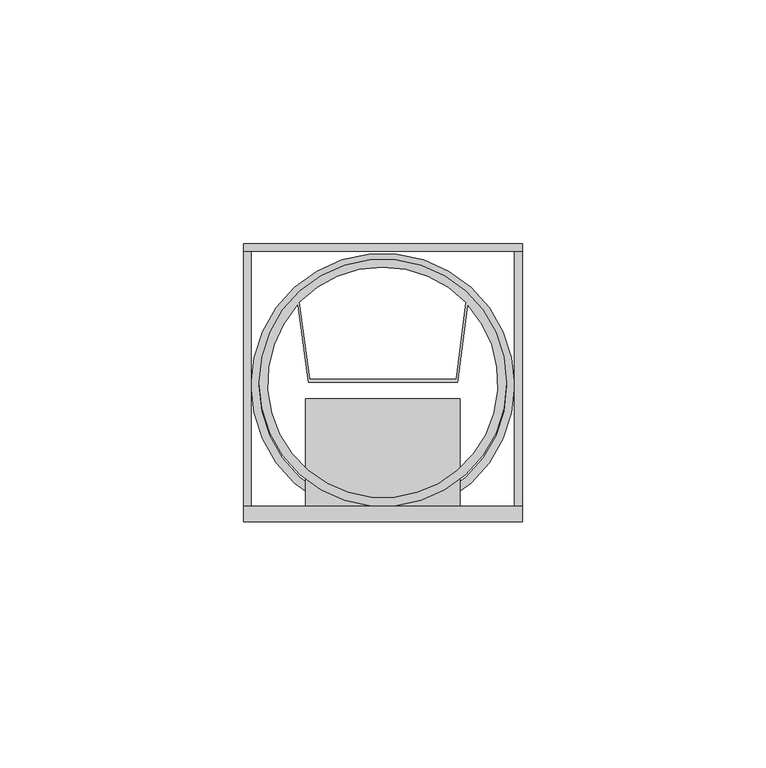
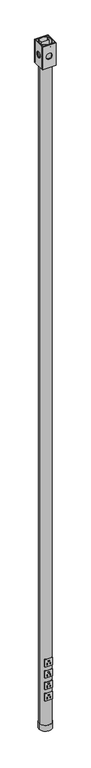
"""IFC4 building model written with IfcOpenShell, lengths in millimetres: proxy geometry, Tele-Power_Poles-Wiremold-Aluminum_Tele-Power_Pole_Round : Tele-Power_Poles-Wiremold-Aluminum_Tele-Power_Pole_Round."""

from ifc_helpers import new_model, si_unit, point, frame, frame_2d, origin, origin_with_axes, origin_2d, place, context, project, spatial, polyline, circle_curve, trimmed, segment, composite_curve, outline, extrude, source, transform, mapped, element, save


def electrical_fixtures_2617ac09(model_context):
    return source(origin(), model_context, "Body", "SweptSolid", [
        extrude(outline(polyline([(168.8388488, 15.875), (168.8388488, -15.875), (137.0888488, -15.875), (137.0888488, 15.875), (168.8388488, 15.875)]), holes=[composite_curve([segment(polyline([(161.1333961, -2.3961918), (161.1333961, 2.3663082), (157.9583961, 2.3663082)]), True, "CONTINUOUS"), segment(trimmed(circle_curve(frame_2d((157.9583961, -0.0149418)), 2.38125), [point((157.9583961, 2.3663082))], [point((157.9583961, -2.3961918))], True, "CARTESIAN"), True, "CONTINUOUS"), segment(polyline([(157.9583961, -2.3961918), (161.1333961, -2.3961918)]), True, "CONTINUOUS")], self_intersect=False), polyline([(149.8958961, 7.0054197), (143.5458961, 7.0054197), (143.5458961, 5.4191893), (149.8958961, 5.4191893), (149.8958961, 7.0054197)]), polyline([(142.7521461, -6.9945803), (150.6896461, -6.9945803), (150.6896461, -5.4083498), (142.7521461, -5.4083498), (142.7521461, -6.9945803)])]), frame((0.0, -25.4, 0.0), z_axis=(0.0, 1.0, 0.0), x_axis=(0.0, 0.0, 1.0)), (0.0, 0.0, 1.0), 22.5886821),
        extrude(outline(polyline([(219.6388488, 15.875), (219.6388488, -15.875), (187.8888488, -15.875), (187.8888488, 15.875), (219.6388488, 15.875)]), holes=[composite_curve([segment(polyline([(211.9333961, -2.3961918), (211.9333961, 2.3663082), (208.7583961, 2.3663082)]), True, "CONTINUOUS"), segment(trimmed(circle_curve(frame_2d((208.7583961, -0.0149418)), 2.38125), [point((208.7583961, 2.3663082))], [point((208.7583961, -2.3961918))], True, "CARTESIAN"), True, "CONTINUOUS"), segment(polyline([(208.7583961, -2.3961918), (211.9333961, -2.3961918)]), True, "CONTINUOUS")], self_intersect=False), polyline([(200.6958961, 7.0054197), (194.3458961, 7.0054197), (194.3458961, 5.4191893), (200.6958961, 5.4191893), (200.6958961, 7.0054197)]), polyline([(193.5521461, -6.9945803), (201.4896461, -6.9945803), (201.4896461, -5.4083498), (193.5521461, -5.4083498), (193.5521461, -6.9945803)])]), frame((0.0, -25.4, 0.0), z_axis=(0.0, 1.0, 0.0), x_axis=(0.0, 0.0, 1.0)), (0.0, 0.0, 1.0), 22.5886821),
        extrude(outline(polyline([(270.4388488, 15.875), (270.4388488, -15.875), (238.6888488, -15.875), (238.6888488, 15.875), (270.4388488, 15.875)]), holes=[composite_curve([segment(polyline([(262.7333961, -2.3961918), (262.7333961, 2.3663082), (259.5583961, 2.3663082)]), True, "CONTINUOUS"), segment(trimmed(circle_curve(frame_2d((259.5583961, -0.0149418)), 2.38125), [point((259.5583961, 2.3663082))], [point((259.5583961, -2.3961918))], True, "CARTESIAN"), True, "CONTINUOUS"), segment(polyline([(259.5583961, -2.3961918), (262.7333961, -2.3961918)]), True, "CONTINUOUS")], self_intersect=False), polyline([(251.4958961, 7.0054197), (245.1458961, 7.0054197), (245.1458961, 5.4191893), (251.4958961, 5.4191893), (251.4958961, 7.0054197)]), polyline([(244.3521461, -6.9945803), (252.2896461, -6.9945803), (252.2896461, -5.4083498), (244.3521461, -5.4083498), (244.3521461, -6.9945803)])]), frame((0.0, -25.4, 0.0), z_axis=(0.0, 1.0, 0.0), x_axis=(0.0, 0.0, 1.0)), (0.0, 0.0, 1.0), 22.5886821),
        extrude(outline(polyline([(321.2388488, 15.875), (321.2388488, -15.875), (289.4888488, -15.875), (289.4888488, 15.875), (321.2388488, 15.875)]), holes=[composite_curve([segment(polyline([(313.5333961, -2.3961918), (313.5333961, 2.3663082), (310.3583961, 2.3663082)]), True, "CONTINUOUS"), segment(trimmed(circle_curve(frame_2d((310.3583961, -0.0149418)), 2.38125), [point((310.3583961, 2.3663082))], [point((310.3583961, -2.3961918))], True, "CARTESIAN"), True, "CONTINUOUS"), segment(polyline([(310.3583961, -2.3961918), (313.5333961, -2.3961918)]), True, "CONTINUOUS")], self_intersect=False), polyline([(302.2958961, 7.0054197), (295.9458961, 7.0054197), (295.9458961, 5.4191893), (302.2958961, 5.4191893), (302.2958961, 7.0054197)]), polyline([(295.1521461, -6.9945803), (303.0896461, -6.9945803), (303.0896461, -5.4083498), (295.1521461, -5.4083498), (295.1521461, -6.9945803)])]), frame((0.0, -25.4, 0.0), z_axis=(0.0, 1.0, 0.0), x_axis=(0.0, 0.0, 1.0)), (0.0, 0.0, 1.0), 22.5886821),
        extrude(outline(polyline([(3073.4, -28.6508285), (2971.8, -28.6508285), (2971.8, 28.6508285), (3073.4, 28.6508285), (3073.4, -28.6508285)]), holes=[composite_curve([segment(trimmed(circle_curve(frame_2d((3022.6, 0.0)), 12.7), [point((3022.6, -12.7))], [point((3022.6, 12.7))], True, "CARTESIAN"), True, "CONTINUOUS"), segment(trimmed(circle_curve(frame_2d((3022.6, 0.0)), 12.7), [point((3022.6, 12.7))], [point((3022.6, -12.7))], True, "CARTESIAN"), True, "CONTINUOUS")], self_intersect=False)]), frame((0.0, 26.9875, 0.0), z_axis=(0.0, 1.0, 0.0), x_axis=(0.0, 0.0, 1.0)), (0.0, 0.0, 1.0), 1.5875),
        extrude(outline(polyline([(3073.4, 28.6508285), (3073.4, -28.6508285), (2971.8, -28.6508285), (2971.8, 28.6508285), (3073.4, 28.6508285)]), holes=[composite_curve([segment(trimmed(circle_curve(frame_2d((3022.6, 0.0)), 12.7), [point((3022.6, -12.7))], [point((3022.6, 12.7))], True, "CARTESIAN"), True, "CONTINUOUS"), segment(trimmed(circle_curve(frame_2d((3022.6, 0.0)), 12.7), [point((3022.6, 12.7))], [point((3022.6, -12.7))], True, "CARTESIAN"), True, "CONTINUOUS")], self_intersect=False)]), frame((0.0, -28.575, 0.0), z_axis=(0.0, 1.0, 0.0), x_axis=(0.0, 0.0, 1.0)), (0.0, 0.0, 1.0), 3.175),
        extrude(outline(polyline([(-28.575, 3073.4), (28.575, 3073.4), (28.575, 2971.8), (-28.575, 2971.8), (-28.575, 3073.4)]), holes=[composite_curve([segment(trimmed(circle_curve(frame_2d((0.0, 3022.6)), 12.7), [point((-12.7, 3022.6))], [point((12.7, 3022.6))], True, "CARTESIAN"), True, "CONTINUOUS"), segment(trimmed(circle_curve(frame_2d((0.0, 3022.6)), 12.7), [point((12.7, 3022.6))], [point((-12.7, 3022.6))], True, "CARTESIAN"), True, "CONTINUOUS")], self_intersect=False)]), frame((-28.6508285, 0.0, 0.0), z_axis=(1.0, 0.0, 0.0), x_axis=(0.0, 1.0, 0.0)), (0.0, 0.0, 1.0), 1.5875),
        extrude(outline(polyline([(-28.575, 3073.4), (28.575, 3073.4), (28.575, 2971.8), (-28.575, 2971.8), (-28.575, 3073.4)]), holes=[composite_curve([segment(trimmed(circle_curve(frame_2d((0.0, 3022.6)), 12.7), [point((-12.7, 3022.6))], [point((12.7, 3022.6))], True, "CARTESIAN"), True, "CONTINUOUS"), segment(trimmed(circle_curve(frame_2d((0.0, 3022.6)), 12.7), [point((12.7, 3022.6))], [point((-12.7, 3022.6))], True, "CARTESIAN"), True, "CONTINUOUS")], self_intersect=False)]), frame((27.0633285, 0.0, 0.0), z_axis=(1.0, 0.0, 0.0), x_axis=(0.0, 1.0, 0.0)), (0.0, 0.0, 1.0), 1.5875),
        extrude(outline(composite_curve([segment(trimmed(circle_curve(origin_2d(), 27.0619141), [point((27.0619141, 0.0))], [point((-27.0619141, 0.0))], False, "CARTESIAN"), True, "CONTINUOUS"), segment(trimmed(circle_curve(origin_2d(), 27.0619141), [point((-27.0619141, 0.0))], [point((27.0619141, 0.0))], False, "CARTESIAN"), True, "CONTINUOUS")], self_intersect=False), holes=[composite_curve([segment(trimmed(circle_curve(origin_2d(), 25.4), [point((-25.4, 0.0))], [point((25.4, 0.0))], True, "CARTESIAN"), True, "CONTINUOUS"), segment(trimmed(circle_curve(origin_2d(), 25.4), [point((25.4, 0.0))], [point((-25.4, 0.0))], True, "CARTESIAN"), True, "CONTINUOUS")], self_intersect=False)]), origin_with_axes(), (0.0, 0.0, 1.0), 25.4),
        extrude(outline(composite_curve([segment(trimmed(circle_curve(origin_2d(), 25.4), [point((-25.4, 0.0))], [point((25.4, 0.0))], False, "CARTESIAN"), True, "CONTINUOUS"), segment(trimmed(circle_curve(origin_2d(), 25.4), [point((25.4, 0.0))], [point((-25.4, 0.0))], False, "CARTESIAN"), True, "CONTINUOUS")], self_intersect=False), holes=[composite_curve([segment(polyline([(-14.9910567, 0.79375), (14.9910594, 0.79375), (17.008074, 16.562491)]), True, "CONTINUOUS"), segment(trimmed(circle_curve(origin_2d(), 23.7400651), [point((17.008074, 16.562491))], [point((-17.0607899, 16.508184))], True, "CARTESIAN"), True, "CONTINUOUS"), segment(polyline([(-17.0607899, 16.508184), (-14.9910567, 0.79375)]), True, "CONTINUOUS")], self_intersect=False), composite_curve([segment(trimmed(circle_curve(origin_2d(), 23.6007769), [point((-17.4857438, 15.8507234))], [point((17.4955522, 15.8398965))], True, "CARTESIAN"), True, "CONTINUOUS"), segment(polyline([(17.4955522, 15.8398965), (15.4448096, 0.0), (-15.3980601, 0.0), (-17.4857438, 15.8507234)]), True, "CONTINUOUS")], self_intersect=False)]), origin_with_axes(), (0.0, 0.0, 1.0), 3073.4),
    ])


if __name__ == "__main__":
    model = new_model("IFC4")
    model_context = context("Model", 3, world=origin())
    ifc_project = project(units=[si_unit("LENGTHUNIT", "METRE", prefix="MILLI")], contexts=[model_context])
    site = spatial("IfcSite", under=ifc_project)
    building = spatial("IfcBuilding", under=site)
    placement = place(None, origin())
    electrical_fixtures_shape = electrical_fixtures_2617ac09(model_context)
    element("IfcBuildingElementProxy", 1, Name="Tele-Power_Poles-Wiremold-Aluminum_Tele-Power_Pole_Round : Tele-Power_Poles-Wiremold-Aluminum_Tele-Power_Pole_Round", ObjectType="Tele-Power_Poles-Wiremold-Aluminum_Tele-Power_Pole_Round : Tele-Power_Poles-Wiremold-Aluminum_Tele-Power_Pole_Round", at=placement, inside=building, context=model_context, shape_type="MappedRepresentation", body=[
        mapped(electrical_fixtures_shape, transform((0.0, 0.0, 0.0), x_axis=(1.0, 0.0, 0.0), y_axis=(0.0, 1.0, 0.0), z_axis=(0.0, 0.0, 1.0))),
    ])
    save(model, "model.ifc")
